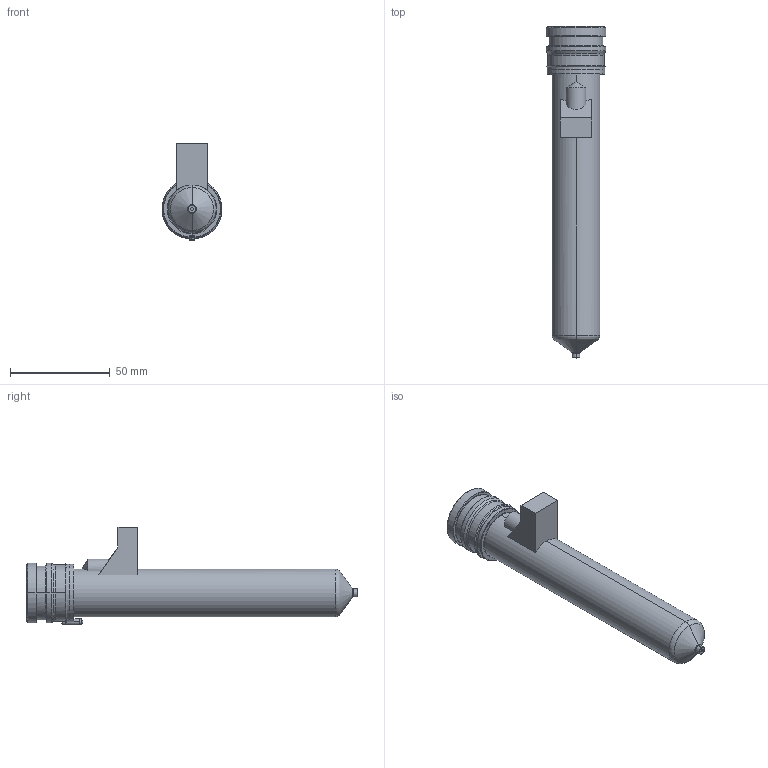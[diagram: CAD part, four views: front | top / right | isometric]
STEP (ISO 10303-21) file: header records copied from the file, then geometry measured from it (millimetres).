
FILE_DESCRIPTION((''),'2;1');
FILE_NAME('MPN-10-29-VP4-146-M','2026-02-05T12:59:18',('UPTIO'),('Thermoplay S.p.A.'),'CREO PARAMETRIC BY PTC INC, 2023494','CREO PARAMETRIC BY PTC INC, 2023494','');
FILE_SCHEMA(('CONFIG_CONTROL_DESIGN','SHAPE_APPEARANCE_LAYERS_GROUPS'));
Length unit declared in the file: millimetre
Products named in the file (1): MPN-10-29-VP4-146-M
Bounding box: 30 x 166.1 x 49 mm (x, y, z)
Volume: 52063.7 mm3; surface area: 53692 mm2
Topology: 3 solids, 5 shells, 570 faces, 1470 edges, 905 vertices
Faces by surface type: cylinder 177, plane 156, bspline 92, torus 69, cone 66, sphere 6, extrusion 4
Entity records: 30846 total; most frequent: CARTESIAN_POINT 14508, ORIENTED_EDGE 2926, DIRECTION 2618, EDGE_CURVE 1463, AXIS2_PLACEMENT_3D 1035, VERTEX_POINT 905, EDGE_LOOP 598, FACE_OUTER_BOUND 570
